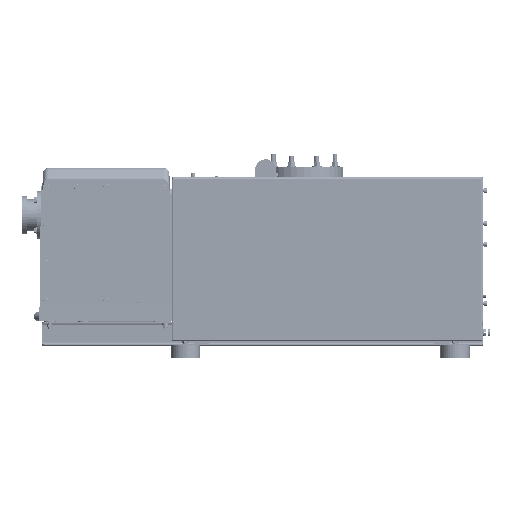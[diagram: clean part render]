
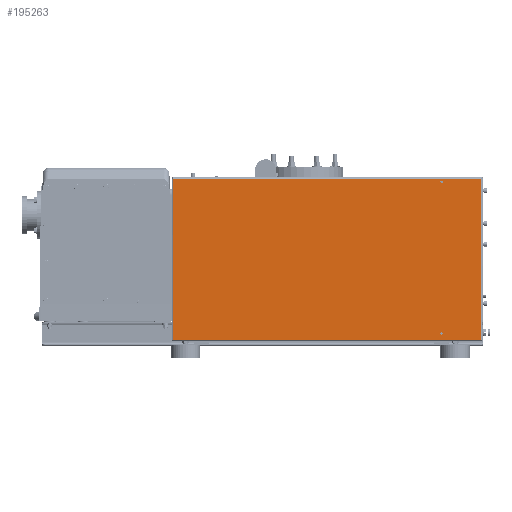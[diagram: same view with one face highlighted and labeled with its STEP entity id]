
A CAD part, top view. The second image highlights one B-rep face of the part: STEP entity #195263.
In plain terms, the highlighted planar face has unit normal (0, 0, 1).
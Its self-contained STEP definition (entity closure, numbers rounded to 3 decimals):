
#194943=DIRECTION('',(-1.,0.,0.));
#194944=VECTOR('',#194943,1039.);
#194945=CARTESIAN_POINT('',(1044.741,-364.,382.498));
#194946=LINE('',#194945,#194944);
#194993=DIRECTION('',(0.,1.,0.));
#194994=VECTOR('',#194993,542.);
#194995=CARTESIAN_POINT('',(5.741,-364.,382.498));
#194996=LINE('',#194995,#194994);
#194997=CARTESIAN_POINT('',(5.741,-364.,382.498));
#195051=DIRECTION('',(1.,0.,0.));
#195052=VECTOR('',#195051,1039.);
#195053=CARTESIAN_POINT('',(5.741,178.,382.498));
#195054=LINE('',#195053,#195052);
#195116=DIRECTION('',(0.,-1.,0.));
#195117=VECTOR('',#195116,542.);
#195118=CARTESIAN_POINT('',(1044.741,178.,382.498));
#195119=LINE('',#195118,#195117);
#195183=VERTEX_POINT('',#194997);
#195184=CARTESIAN_POINT('',(5.741,178.,382.498));
#195185=VERTEX_POINT('',#195184);
#195208=CARTESIAN_POINT('',(1044.741,-364.,382.498));
#195209=VERTEX_POINT('',#195208);
#195210=CARTESIAN_POINT('',(1044.741,178.,382.498));
#195211=VERTEX_POINT('',#195210);
#195248=CARTESIAN_POINT('',(1048.741,-368.,382.498));
#195249=DIRECTION('',(0.,0.,-1.));
#195250=DIRECTION('',(-1.,0.,0.));
#195251=AXIS2_PLACEMENT_3D('',#195248,#195249,#195250);
#195252=PLANE('',#195251);
#195254=ORIENTED_EDGE('',*,*,#195253,.T.);
#195256=ORIENTED_EDGE('',*,*,#195255,.T.);
#195258=ORIENTED_EDGE('',*,*,#195257,.T.);
#195260=ORIENTED_EDGE('',*,*,#195259,.T.);
#195261=EDGE_LOOP('',(#195254,#195256,#195258,#195260));
#195262=FACE_OUTER_BOUND('',#195261,.F.);
#195263=ADVANCED_FACE('',(#195262),#195252,.F.);
#195253=EDGE_CURVE('',#195211,#195209,#195119,.T.);
#195255=EDGE_CURVE('',#195209,#195183,#194946,.T.);
#195257=EDGE_CURVE('',#195183,#195185,#194996,.T.);
#195259=EDGE_CURVE('',#195185,#195211,#195054,.T.);
